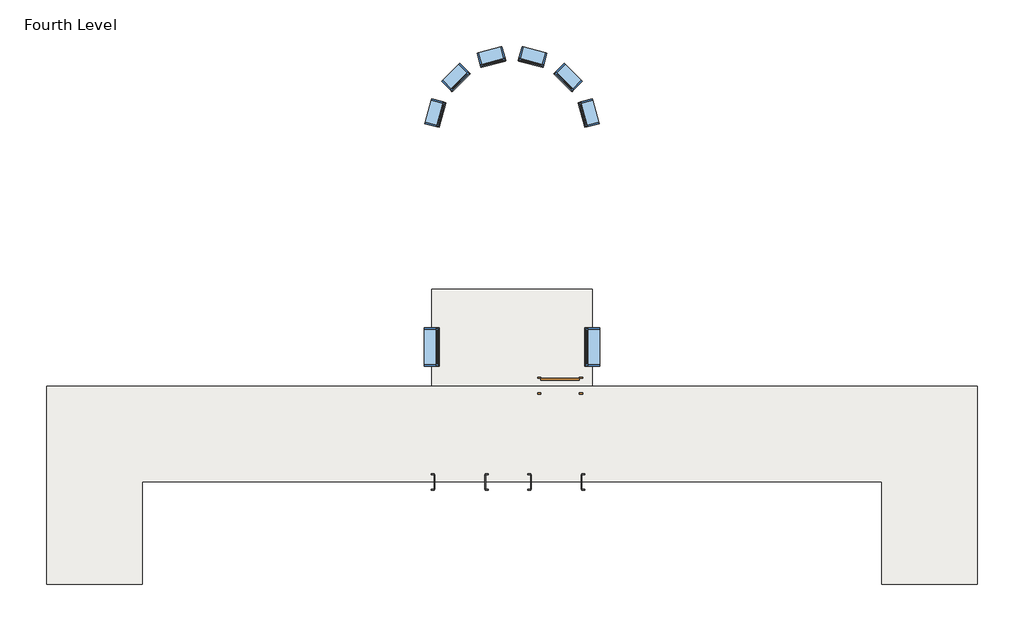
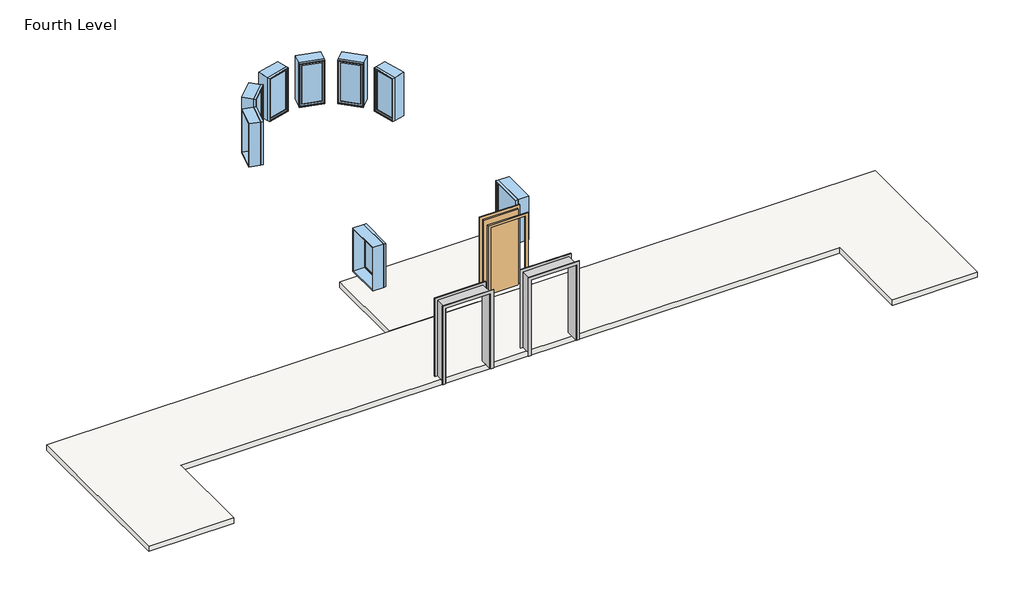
# One storey: 8 windows, 2 proxies, 2 slabs, 1 door.
"""IFC4 building model written with IfcOpenShell, lengths in millimetres."""

from ifc_helpers import new_model, si_unit, frame, origin, place, context, project, spatial, polyline, outline, extrude, transform, mapped, element, save
from components import m_passage_opening_cased_1220_x_2134mm_f04423fa, m_single_flush_0915_x_2134mm_1eac8bb1, m_fixed_0610_x_1220mm_2c28ef1d, m_fixed_0610_x_1220mm_1ea27827, m_fixed_0915_x_1220mm_bde29121

model = new_model("IFC4")

# Units and contexts
model_context = context("Model", 3, world=origin())
ifc_project = project(units=[si_unit("LENGTHUNIT", "METRE", prefix="MILLI")], contexts=[model_context])

# Site, building, storey
site = spatial("IfcSite", under=ifc_project)
building = spatial("IfcBuilding", under=site)
storey = spatial("IfcBuildingStorey", under=building, Name="Fourth Level", Elevation=9144.0)

# Proxies
placement = place(None, origin())
m_passage_opening_cased_1220_x_2134mm_shape = m_passage_opening_cased_1220_x_2134mm_f04423fa(model_context)
element("IfcBuildingElementProxy", 1, Name="M_Passage Opening-Cased : 1220 x 2134mm", ObjectType="M_Passage Opening-Cased : 1220 x 2134mm", at=placement, inside=storey, context=model_context, shape_type="MappedRepresentation", body=[
    mapped(m_passage_opening_cased_1220_x_2134mm_shape, transform((3529.9038, -3050.7443399, 9144.0), x_axis=(-1.0, 0.0, 0.0), y_axis=(0.0, -1.0, 0.0), z_axis=(0.0, 0.0, 1.0))),
])
element("IfcBuildingElementProxy", 2, Name="M_Passage Opening-Cased : 1220 x 2134mm", ObjectType="M_Passage Opening-Cased : 1220 x 2134mm", at=placement, inside=storey, context=model_context, shape_type="MappedRepresentation", body=[
    mapped(m_passage_opening_cased_1220_x_2134mm_shape, transform((1260.2811134, -3050.7443399, 9144.0), x_axis=(1.0, 0.0, 0.0), y_axis=(0.0, 1.0, 0.0), z_axis=(0.0, 0.0, 1.0))),
])

# Door
m_single_flush_0915_x_2134mm_shape = m_single_flush_0915_x_2134mm_1eac8bb1(model_context)
element("IfcDoor", 3, ObjectType="M_Single-Flush : 0915 x 2134mm", at=placement, inside=storey, context=model_context, shape_type="MappedRepresentation", body=[
    mapped(m_single_flush_0915_x_2134mm_shape, transform((3632.0924567, -764.7443399, 9144.0), x_axis=(1.0, 0.0, 0.0), y_axis=(0.0, 1.0, 0.0), z_axis=(0.0, 0.0, 1.0))),
])

# Slabs
element("IfcSlab", 4, ObjectType="Generic 150mm", at=placement, inside=storey, context=model_context, shape_type="SweptSolid", body=[
    extrude(outline(polyline([(13528.0924567, -774.7443399), (13528.0924567, -5479.1443399), (11262.0924567, -5479.1443399), (11262.0924567, -3040.7443399), (-6283.9075433, -3040.7443399), (-6283.9075433, -5479.1443399), (-8549.9075433, -5479.1443399), (-8549.9075433, -774.7443399), (13528.0924567, -774.7443399)])), frame((0.0, 0.0, 8994.0), z_axis=(0.0, 0.0, 1.0), x_axis=(1.0, 0.0, 0.0)), (0.0, 0.0, 1.0), 150.0),
])
element("IfcSlab", 5, ObjectType="Generic 150mm", at=placement, inside=storey, context=model_context, shape_type="SweptSolid", body=[
    extrude(outline(polyline([(4394.0924567, -764.7443399), (584.0924567, -764.7443399), (584.0924567, 1521.2556601), (4394.0924567, 1521.2556601), (4394.0924567, -764.7443399)])), frame((0.0, 0.0, 8994.0), z_axis=(0.0, 0.0, 1.0), x_axis=(1.0, 0.0, 0.0)), (0.0, 0.0, 1.0), 150.0),
])

# Windows
m_fixed_0610_x_1220mm_shape = m_fixed_0610_x_1220mm_2c28ef1d(model_context)
element("IfcWindow", 6, ObjectType="M_Fixed : 0610 x 1220mm", at=placement, inside=storey, context=model_context, shape_type="MappedRepresentation", body=[
    mapped(m_fixed_0610_x_1220mm_shape, transform((658.1639152, 5700.8514842, 9144.0), x_axis=(-0.2588190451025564, -0.9659258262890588, 0.0), y_axis=(0.9659258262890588, -0.2588190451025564, 0.0), z_axis=(0.0, 0.0, 1.0))),
])
element("IfcWindow", 7, ObjectType="M_Fixed : 0610 x 1220mm", at=placement, inside=storey, context=model_context, shape_type="MappedRepresentation", body=[
    mapped(m_fixed_0610_x_1220mm_shape, transform((1998.4966326, 7041.1842016, 9144.0), x_axis=(-0.9659258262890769, -0.2588190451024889, 0.0), y_axis=(0.2588190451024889, -0.9659258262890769, 0.0), z_axis=(0.0, 0.0, 1.0))),
])
element("IfcWindow", 8, ObjectType="M_Fixed : 0610 x 1220mm", at=placement, inside=storey, context=model_context, shape_type="MappedRepresentation", body=[
    mapped(m_fixed_0610_x_1220mm_shape, transform((1148.7597393, 6550.5883775, 9144.0), x_axis=(-0.7071067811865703, -0.7071067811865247, 0.0), y_axis=(0.7071067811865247, -0.7071067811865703, 0.0), z_axis=(0.0, 0.0, 1.0))),
])
m_fixed_0610_x_1220mm_2_shape = m_fixed_0610_x_1220mm_1ea27827(model_context)
element("IfcWindow", 9, ObjectType="M_Fixed : 0610 x 1220mm", at=placement, inside=storey, context=model_context, shape_type="MappedRepresentation", body=[
    mapped(m_fixed_0610_x_1220mm_2_shape, transform((4320.0209983, 5700.8514842, 9144.0), x_axis=(0.2588190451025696, -0.9659258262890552, 0.0), y_axis=(0.9659258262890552, 0.2588190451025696, 0.0), z_axis=(0.0, 0.0, 1.0))),
])
element("IfcWindow", 10, ObjectType="M_Fixed : 0610 x 1220mm", at=placement, inside=storey, context=model_context, shape_type="MappedRepresentation", body=[
    mapped(m_fixed_0610_x_1220mm_2_shape, transform((2979.6882808, 7041.1842016, 9144.0), x_axis=(0.965925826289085, -0.2588190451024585, 0.0), y_axis=(0.2588190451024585, 0.965925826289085, 0.0), z_axis=(0.0, 0.0, 1.0))),
])
element("IfcWindow", 11, ObjectType="M_Fixed : 0610 x 1220mm", at=placement, inside=storey, context=model_context, shape_type="MappedRepresentation", body=[
    mapped(m_fixed_0610_x_1220mm_2_shape, transform((3829.4251742, 6550.5883775, 9144.0), x_axis=(0.7071067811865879, -0.7071067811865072, 0.0), y_axis=(0.7071067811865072, 0.7071067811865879, 0.0), z_axis=(0.0, 0.0, 1.0))),
])
m_fixed_0915_x_1220mm_shape = m_fixed_0915_x_1220mm_bde29121(model_context)
element("IfcWindow", 12, ObjectType="M_Fixed : 0915 x 1220mm", at=placement, inside=storey, context=model_context, shape_type="MappedRepresentation", body=[
    mapped(m_fixed_0915_x_1220mm_shape, transform((571.0924567, 150.2556601, 9144.0), x_axis=(0.0, -1.0, 0.0), y_axis=(1.0, 0.0, 0.0), z_axis=(0.0, 0.0, 1.0))),
])
element("IfcWindow", 13, ObjectType="M_Fixed : 0915 x 1220mm", at=placement, inside=storey, context=model_context, shape_type="MappedRepresentation", body=[
    mapped(m_fixed_0915_x_1220mm_shape, transform((4407.0924567, 150.2556601, 9144.0), x_axis=(0.0, 1.0, 0.0), y_axis=(-1.0, 0.0, 0.0), z_axis=(0.0, 0.0, 1.0))),
])

save(model, "model.ifc")
